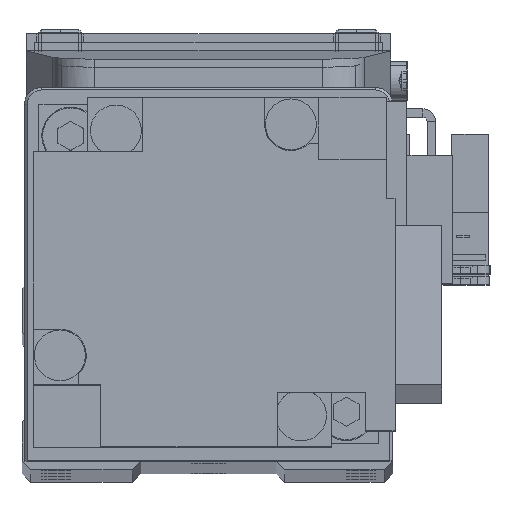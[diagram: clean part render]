
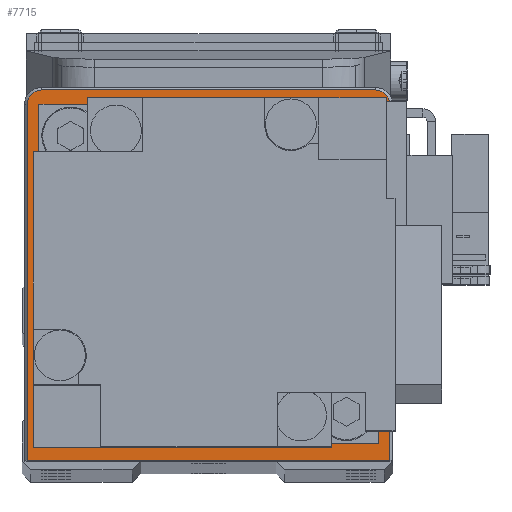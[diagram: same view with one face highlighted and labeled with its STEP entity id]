
A CAD part, top view. The second image highlights one B-rep face of the part: STEP entity #7715.
In plain terms, the highlighted planar face has unit normal (0, 0, 1).
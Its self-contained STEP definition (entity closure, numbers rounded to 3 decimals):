
#241 = CARTESIAN_POINT ( 'NONE',  ( 10., 0., 26.5 ) ) ;
#669 = EDGE_CURVE ( 'NONE', #21767, #30158, #1968, .T. ) ;
#811 = ORIENTED_EDGE ( 'NONE', *, *, #29666, .T. ) ;
#1001 = VECTOR ( 'NONE', #12616, 1000. ) ;
#1260 = CARTESIAN_POINT ( 'NONE',  ( 0., 0., 26.5 ) ) ;
#1773 = VECTOR ( 'NONE', #23371, 1000. ) ;
#1920 = CARTESIAN_POINT ( 'NONE',  ( -19.7, 21.7, 26.5 ) ) ;
#1968 = LINE ( 'NONE', #12660, #1773 ) ;
#2506 = VERTEX_POINT ( 'NONE', #29798 ) ;
#2553 = VECTOR ( 'NONE', #20516, 1000. ) ;
#2616 = AXIS2_PLACEMENT_3D ( 'NONE', #1260, #11953, #22651 ) ;
#3286 = DIRECTION ( 'NONE',  ( 1., 0., 0. ) ) ;
#3423 = DIRECTION ( 'NONE',  ( 0., 0., 1. ) ) ;
#4253 = ORIENTED_EDGE ( 'NONE', *, *, #11149, .T. ) ;
#4700 = ORIENTED_EDGE ( 'NONE', *, *, #33291, .T. ) ;
#5242 = AXIS2_PLACEMENT_3D ( 'NONE', #27444, #3423, #14108 ) ;
#6410 = EDGE_CURVE ( 'NONE', #33852, #2506, #9820, .T. ) ;
#7715 = ADVANCED_FACE ( 'NONE', ( #10899, #21591 ), #32310, .T. ) ;
#7753 = VERTEX_POINT ( 'NONE', #19125 ) ;
#8270 = CARTESIAN_POINT ( 'NONE',  ( 0., 0., 26.5 ) ) ;
#8675 = VERTEX_POINT ( 'NONE', #13784 ) ;
#9819 = CARTESIAN_POINT ( 'NONE',  ( -21.7, -22., 26.5 ) ) ;
#9820 = CIRCLE ( 'NONE', #29430, 10. ) ;
#10211 = LINE ( 'NONE', #20904, #28005 ) ;
#10263 = ORIENTED_EDGE ( 'NONE', *, *, #18756, .T. ) ;
#10420 = DIRECTION ( 'NONE',  ( 1., 0., 0. ) ) ;
#10603 = EDGE_LOOP ( 'NONE', ( #20779, #13075 ) ) ;
#10899 = FACE_OUTER_BOUND ( 'NONE', #15257, .T. ) ;
#11012 = EDGE_CURVE ( 'NONE', #2506, #33852, #32890, .T. ) ;
#11149 = EDGE_CURVE ( 'NONE', #7753, #27094, #14391, .T. ) ;
#11519 = VERTEX_POINT ( 'NONE', #20551 ) ;
#11953 = DIRECTION ( 'NONE',  ( 0., 0., 1. ) ) ;
#12616 = DIRECTION ( 'NONE',  ( -1., 0., 0. ) ) ;
#12660 = CARTESIAN_POINT ( 'NONE',  ( -21.4, -22., 26.5 ) ) ;
#13075 = ORIENTED_EDGE ( 'NONE', *, *, #6410, .F. ) ;
#13784 = CARTESIAN_POINT ( 'NONE',  ( 21.4, -22., 26.5 ) ) ;
#14108 = DIRECTION ( 'NONE',  ( 1., 0., 0. ) ) ;
#14203 = EDGE_CURVE ( 'NONE', #8675, #7753, #10211, .T. ) ;
#14391 = CIRCLE ( 'NONE', #34007, 1.7 ) ;
#15257 = EDGE_LOOP ( 'NONE', ( #4700, #32638, #4253, #10263, #811, #17679 ) ) ;
#16604 = CARTESIAN_POINT ( 'NONE',  ( 0., 0., 26.5 ) ) ;
#17679 = ORIENTED_EDGE ( 'NONE', *, *, #669, .T. ) ;
#18756 = EDGE_CURVE ( 'NONE', #27094, #11519, #25941, .T. ) ;
#18960 = DIRECTION ( 'NONE',  ( 0., 0., 1. ) ) ;
#19125 = CARTESIAN_POINT ( 'NONE',  ( 21.4, 20., 26.5 ) ) ;
#20352 = CIRCLE ( 'NONE', #5242, 1.7 ) ;
#20516 = DIRECTION ( 'NONE',  ( 1., 0., 0. ) ) ;
#20551 = CARTESIAN_POINT ( 'NONE',  ( -19.7, 21.7, 26.5 ) ) ;
#20779 = ORIENTED_EDGE ( 'NONE', *, *, #11012, .F. ) ;
#20904 = CARTESIAN_POINT ( 'NONE',  ( 21.4, 20., 26.5 ) ) ;
#21591 = FACE_BOUND ( 'NONE', #10603, .T. ) ;
#21767 = VERTEX_POINT ( 'NONE', #32193 ) ;
#22651 = DIRECTION ( 'NONE',  ( 1., 0., 0. ) ) ;
#22884 = CARTESIAN_POINT ( 'NONE',  ( 19.7, 21.7, 26.5 ) ) ;
#23371 = DIRECTION ( 'NONE',  ( 0., -1., 0. ) ) ;
#23750 = CARTESIAN_POINT ( 'NONE',  ( 19.7, 20., 26.5 ) ) ;
#25941 = LINE ( 'NONE', #1920, #1001 ) ;
#27094 = VERTEX_POINT ( 'NONE', #22884 ) ;
#27309 = DIRECTION ( 'NONE',  ( 0., 0., 1. ) ) ;
#27401 = CARTESIAN_POINT ( 'NONE',  ( -21.4, -22., 26.5 ) ) ;
#27444 = CARTESIAN_POINT ( 'NONE',  ( -19.7, 20., 26.5 ) ) ;
#28005 = VECTOR ( 'NONE', #31622, 1000. ) ;
#29430 = AXIS2_PLACEMENT_3D ( 'NONE', #16604, #27309, #3286 ) ;
#29666 = EDGE_CURVE ( 'NONE', #11519, #21767, #20352, .T. ) ;
#29682 = DIRECTION ( 'NONE',  ( 1., 0., 0. ) ) ;
#29798 = CARTESIAN_POINT ( 'NONE',  ( -10., 0., 26.5 ) ) ;
#30158 = VERTEX_POINT ( 'NONE', #27401 ) ;
#31196 = AXIS2_PLACEMENT_3D ( 'NONE', #8270, #18960, #29682 ) ;
#31622 = DIRECTION ( 'NONE',  ( 0., 1., 0. ) ) ;
#32193 = CARTESIAN_POINT ( 'NONE',  ( -21.4, 20., 26.5 ) ) ;
#32310 = PLANE ( 'NONE',  #31196 ) ;
#32638 = ORIENTED_EDGE ( 'NONE', *, *, #14203, .T. ) ;
#32890 = CIRCLE ( 'NONE', #2616, 10. ) ;
#33291 = EDGE_CURVE ( 'NONE', #30158, #8675, #33860, .T. ) ;
#33852 = VERTEX_POINT ( 'NONE', #241 ) ;
#33860 = LINE ( 'NONE', #9819, #2553 ) ;
#34007 = AXIS2_PLACEMENT_3D ( 'NONE', #23750, #34461, #10420 ) ;
#34461 = DIRECTION ( 'NONE',  ( 0., 0., 1. ) ) ;
